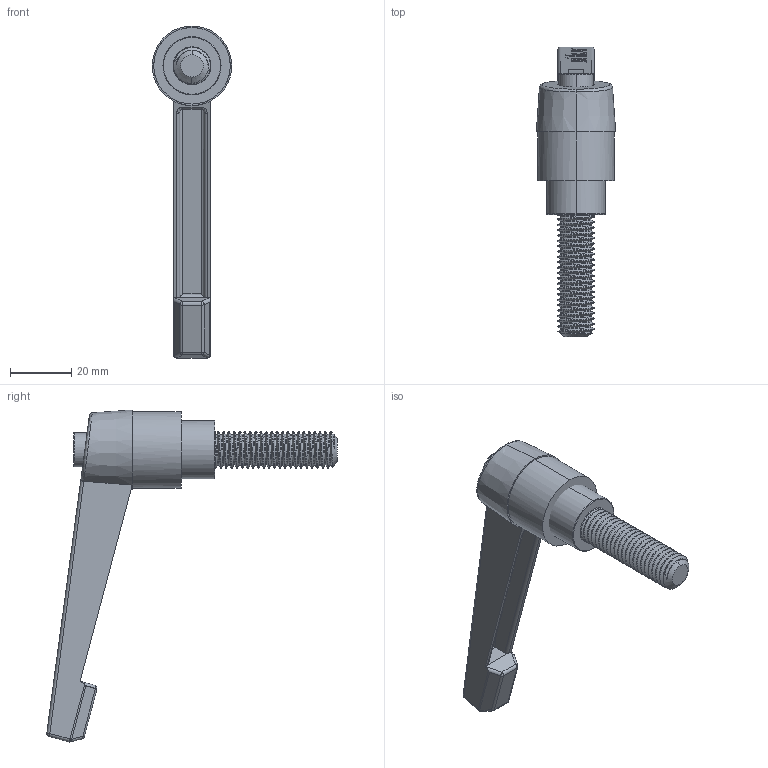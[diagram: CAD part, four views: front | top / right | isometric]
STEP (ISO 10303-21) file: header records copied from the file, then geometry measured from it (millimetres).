
FILE_DESCRIPTION (( 'STEP AP214' ), '1' );
FILE_NAME ('348.0503A.01.STEP', '2024-11-08T13:36:12', ( 'Àëåêñåé' ), ( '' ), 'SwSTEP 2.0', 'SolidWorks 2022', '' );
FILE_SCHEMA (( 'AUTOMOTIVE_DESIGN' ));
Length unit declared in the file: millimetre
Products named in the file (5): 348.0503A.01-4; 348.0503A.01-3; 348.0503A.01-2; 348.0503A.01-1; 348.0503A.01
Assembly tree (4 placements, depth 2):
  348.0503A.01
    348.0503A.01-1
    348.0503A.01-2
    348.0503A.01-3
    348.0503A.01-4
Bounding box: 25.93 x 94.89 x 108.47 mm (x, y, z)
Volume: 30026.1 mm3; surface area: 15633.6 mm2
Topology: 4 solids, 4 shells, 536 faces, 1358 edges, 797 vertices
Faces by surface type: cylinder 188, plane 130, bspline 128, torus 46, sphere 39, cone 5
Entity records: 32728 total; most frequent: CARTESIAN_POINT 20378, ORIENTED_EDGE 2612, DIRECTION 2017, EDGE_CURVE 1306, VERTEX_POINT 795, AXIS2_PLACEMENT_3D 765, EDGE_LOOP 559, FACE_OUTER_BOUND 536
